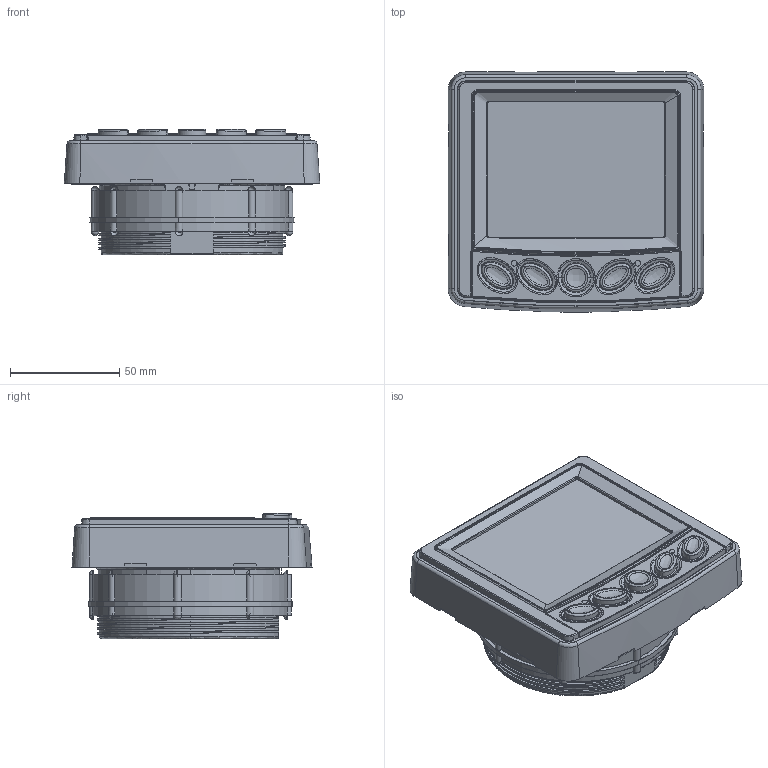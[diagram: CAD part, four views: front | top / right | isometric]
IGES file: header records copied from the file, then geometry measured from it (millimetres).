
Start section: SolidWorks IGES file using analytic representation for surfaces
Global section: file name: Z:\CAD Data\DWGs\In Process\JEREMY\HV300 PV300\HV300\Radial Seal Design\Radial Seal with dash seal\PV380.IGS; native system: SolidWorks 2011; preprocessor: SolidWorks 2011; author: randerson; date: 120131.090841; units: inch
Bounding box: 116.84 x 109.8 x 57.43 mm (x, y, z)
Surface area: 76831.2 mm2 (no closed solid volume)
Topology: 0 solids, 0 shells, 720 faces, 12585 edges, 14980 vertices
Faces by surface type: bspline 439, revolution 281
